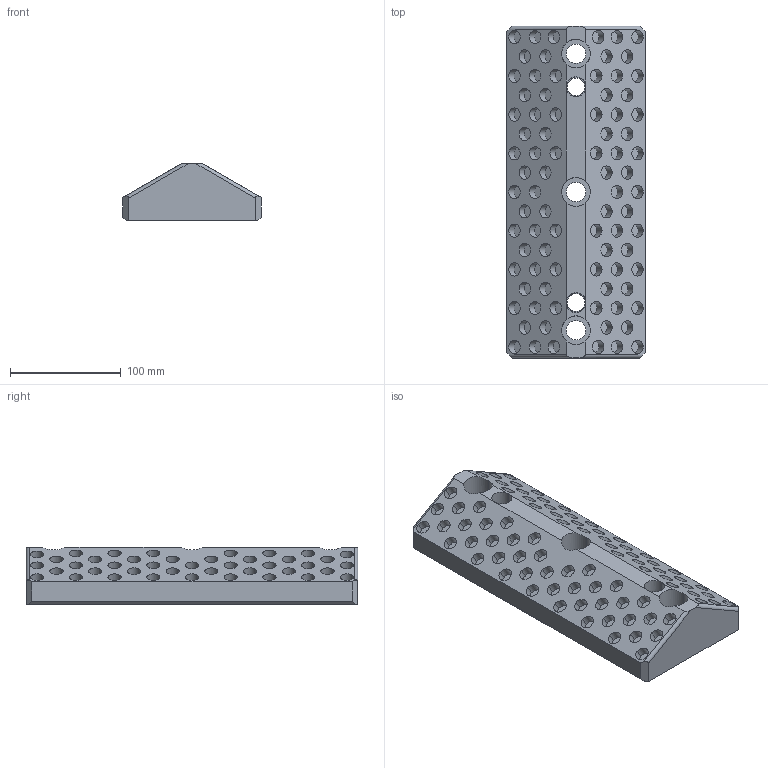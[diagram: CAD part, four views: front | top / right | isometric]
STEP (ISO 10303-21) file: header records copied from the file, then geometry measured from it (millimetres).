
FILE_DESCRIPTION (( 'STEP AP214' ), '1' );
FILE_NAME ('SW232-03-125x300.STEP', '2020-10-21T09:15:22', ( 'August' ), ( '' ), 'SwSTEP 2.0', 'SolidWorks 2018', '' );
FILE_SCHEMA (( 'AUTOMOTIVE_DESIGN' ));
Length unit declared in the file: millimetre
Products named in the file (1): SW232-03-125x300
Bounding box: 125 x 300 x 52 mm (x, y, z)
Volume: 1262957.9 mm3; surface area: 144460.9 mm2
Topology: 1 solids, 1 shells, 300 faces, 642 edges, 428 vertices
Faces by surface type: cylinder 192, plane 108
Entity records: 9387 total; most frequent: CARTESIAN_POINT 1945, DIRECTION 1582, ORIENTED_EDGE 1284, AXIS2_PLACEMENT_3D 672, EDGE_CURVE 642, VERTEX_POINT 428, EDGE_LOOP 394, CIRCLE 371
